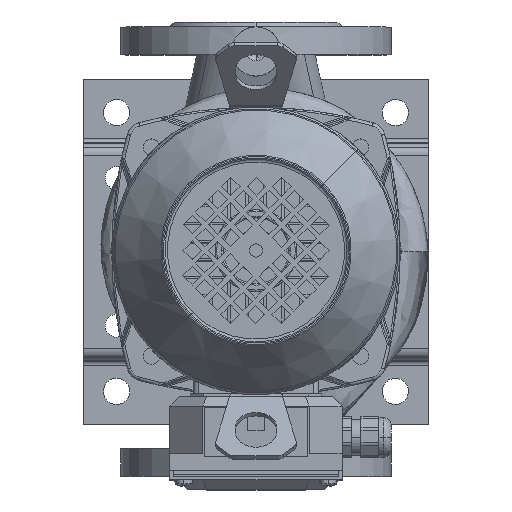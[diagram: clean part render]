
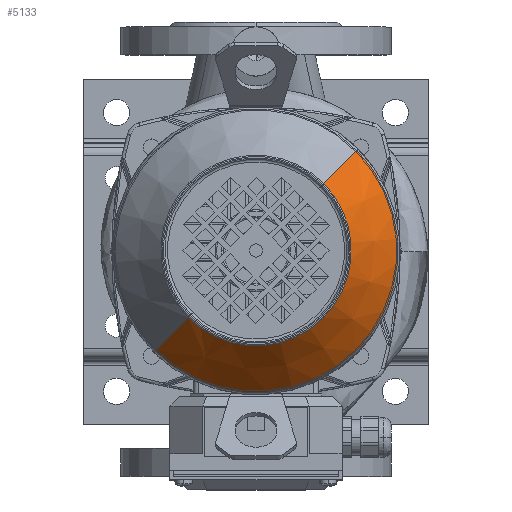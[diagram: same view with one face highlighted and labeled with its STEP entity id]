
A CAD part, top view. The second image highlights one B-rep face of the part: STEP entity #5133.
In plain terms, the highlighted conical face has half-angle 37 degrees and reference radius 58.108 mm.
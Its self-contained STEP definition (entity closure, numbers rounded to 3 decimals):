
#5133=ADVANCED_FACE('NONE',(#12598),#12599,.T.);
#12598=FACE_OUTER_BOUND('',#28061,.T.);
#12599=CONICAL_SURFACE('',#28062,58.108,0.646);
#28061=EDGE_LOOP('',(#45163,#45164,#45165,#45166));
#28062=AXIS2_PLACEMENT_3D('',#45167,#45168,#45169);
#45163=ORIENTED_EDGE('',*,*,#53508,.T.);
#45164=ORIENTED_EDGE('',*,*,#53586,.T.);
#45165=ORIENTED_EDGE('',*,*,#53509,.T.);
#45166=ORIENTED_EDGE('',*,*,#53612,.F.);
#45167=CARTESIAN_POINT('',(0.0,96.403,0.0));
#45168=DIRECTION('',(-0.0,-1.0,-0.0));
#45169=DIRECTION('',(0.0,0.0,-1.0));
#53508=EDGE_CURVE('',#64672,#64675,#64676,.T.);
#53509=EDGE_CURVE('',#64677,#64670,#64678,.T.);
#53586=EDGE_CURVE('NONE',#64675,#64677,#64809,.T.);
#53612=EDGE_CURVE('NONE',#64672,#64670,#64841,.T.);
#64670=VERTEX_POINT('',#88281);
#64672=VERTEX_POINT('NONE',#88283);
#64675=VERTEX_POINT('NONE',#88286);
#64676=LINE('',#88287,#88288);
#64677=VERTEX_POINT('',#88289);
#64678=LINE('',#88290,#88291);
#64809=CIRCLE('',#88784,86.592);
#64841=CIRCLE('',#89014,58.108);
#88281=CARTESIAN_POINT('',(0.,96.403,58.108));
#88283=CARTESIAN_POINT('',(0.,96.403,-58.108));
#88286=CARTESIAN_POINT('',(0.0,58.603,-86.592));
#88287=CARTESIAN_POINT('',(0.,96.403,-58.108));
#88288=VECTOR('',#99009,1.0);
#88289=CARTESIAN_POINT('',(0.,58.603,86.592));
#88290=CARTESIAN_POINT('',(0.,96.403,58.108));
#88291=VECTOR('',#99010,1.0);
#88784=AXIS2_PLACEMENT_3D('',#99137,#99138,#99139);
#89014=AXIS2_PLACEMENT_3D('',#99197,#99198,#99199);
#99009=DIRECTION('',(0.,-0.799,-0.602));
#99010=DIRECTION('',(0.,0.799,-0.602));
#99137=CARTESIAN_POINT('',(0.0,58.603,0.0));
#99138=DIRECTION('',(-0.0,1.0,0.0));
#99139=DIRECTION('',(0.0,0.0,1.0));
#99197=CARTESIAN_POINT('',(0.0,96.403,0.0));
#99198=DIRECTION('',(-0.0,1.0,0.0));
#99199=DIRECTION('',(0.0,0.0,1.0));
